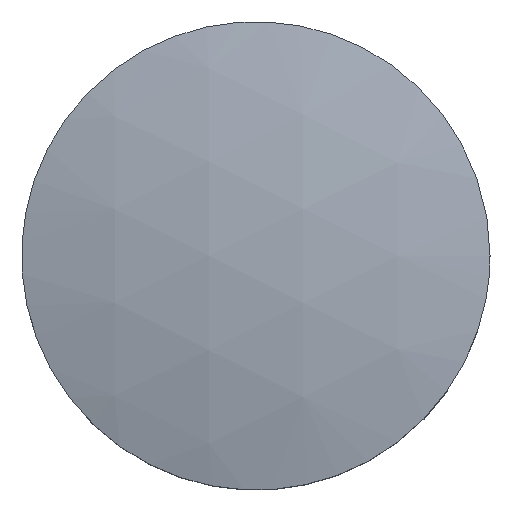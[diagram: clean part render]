
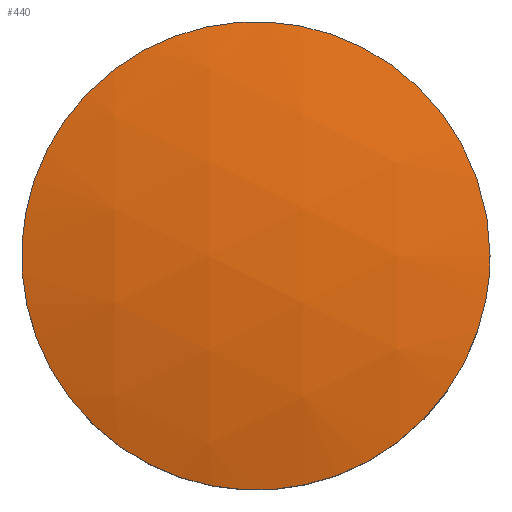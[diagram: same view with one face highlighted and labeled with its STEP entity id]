
A CAD part, top view. The second image highlights one B-rep face of the part: STEP entity #440.
In plain terms, the highlighted spherical face has radius 7.97 mm.
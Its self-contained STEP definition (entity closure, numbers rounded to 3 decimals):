
#230 = CARTESIAN_POINT ('', (2., 0., -5.255));
#240 = VERTEX_POINT ('', #230);
#250 = CARTESIAN_POINT ('', (2., 0., -5.255));
#260 = CARTESIAN_POINT ('', (2., 2., -5.255));
#270 = CARTESIAN_POINT ('', (0., 2., -5.255));
#280 = CARTESIAN_POINT ('', (-2., 2., -5.255));
#290 = CARTESIAN_POINT ('', (-2., 0., -5.255));
#300 = CARTESIAN_POINT ('', (-2., -2., -5.255));
#310 = CARTESIAN_POINT ('', (0., -2., -5.255));
#320 = CARTESIAN_POINT ('', (2., -2., -5.255));
#330 = CARTESIAN_POINT ('', (2., 0., -5.255));
#340 = (
   BOUNDED_CURVE ()
   B_SPLINE_CURVE (2, (#250, #260, #270, #280, #290, #300, #310, #320, #330), .UNSPECIFIED., .T., .U.)
   B_SPLINE_CURVE_WITH_KNOTS ((3, 2, 2, 2, 3), (0., 1.571, 3.142, 4.712, 6.283), .UNSPECIFIED.)
   CURVE ()
   GEOMETRIC_REPRESENTATION_ITEM ()
   RATIONAL_B_SPLINE_CURVE ((1., 0.707, 1., 0.707, 1., 0.707, 1., 0.707, 1.))
   REPRESENTATION_ITEM ('')
);
#350 = EDGE_CURVE ('', #240, #240, #340, .T.);
#360 = ORIENTED_EDGE ('', *, *, #350, .T.);
#370 = EDGE_LOOP ('', (#360));
#380 = FACE_OUTER_BOUND ('', #370, .T.);
#390 = CARTESIAN_POINT ('', (0., 0., -12.97));
#400 = DIRECTION ('', (-1., 0., 0.));
#410 = DIRECTION ('', (0., -1., 0.));
#420 = AXIS2_PLACEMENT_3D ('', #390, #400, #410);
#430 = SPHERICAL_SURFACE ('', #420, 7.97);
#440 = ADVANCED_FACE ('', (#380), #430, .T.);
